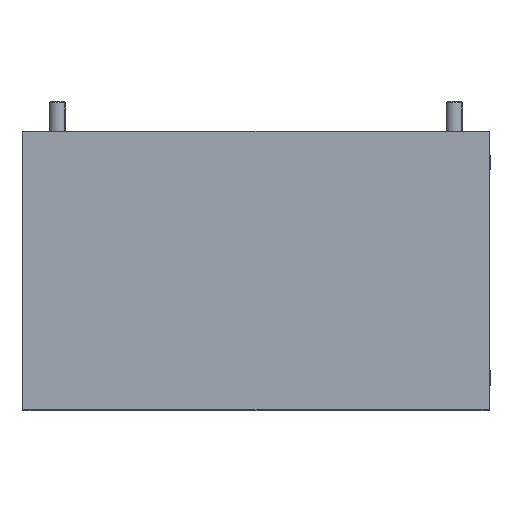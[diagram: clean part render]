
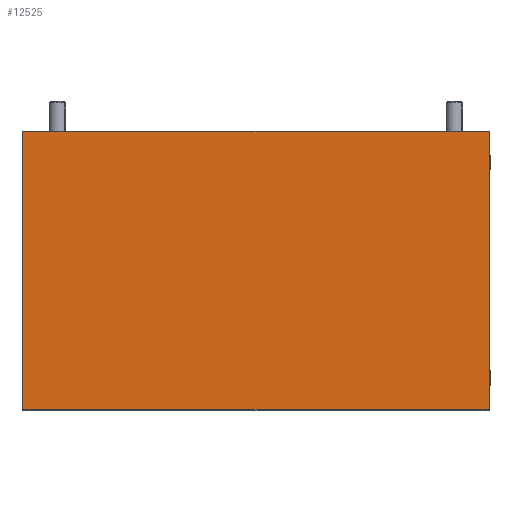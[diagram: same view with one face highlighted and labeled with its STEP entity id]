
A CAD part, top view. The second image highlights one B-rep face of the part: STEP entity #12525.
In plain terms, the highlighted planar face has unit normal (0, 0, 1) as drawn and (0, 0, -1) by its records, which use the part's own axes.
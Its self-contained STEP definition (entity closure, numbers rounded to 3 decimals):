
#84 = ORIENTED_EDGE ( 'NONE', *, *, #5702, .F. ) ;
#126 = VECTOR ( 'NONE', #11003, 1000. ) ;
#172 = DIRECTION ( 'NONE',  ( 1., 0., 0. ) ) ;
#1062 = EDGE_CURVE ( 'NONE', #5491, #11323, #12089, .T. ) ;
#1092 = CARTESIAN_POINT ( 'NONE',  ( -167.75, 100., -2.5 ) ) ;
#1563 = CARTESIAN_POINT ( 'NONE',  ( 167.75, -100., -2.5 ) ) ;
#1986 = VERTEX_POINT ( 'NONE', #6849 ) ;
#2107 = AXIS2_PLACEMENT_3D ( 'NONE', #4988, #9353, #2943 ) ;
#2111 = CARTESIAN_POINT ( 'NONE',  ( -167.75, 0., -2.5 ) ) ;
#2143 = ORIENTED_EDGE ( 'NONE', *, *, #1062, .F. ) ;
#2943 = DIRECTION ( 'NONE',  ( -1., 0., 0. ) ) ;
#3274 = VECTOR ( 'NONE', #8231, 1000. ) ;
#4901 = CARTESIAN_POINT ( 'NONE',  ( 167.75, 100., -2.5 ) ) ;
#4988 = CARTESIAN_POINT ( 'NONE',  ( 0., 0., -2.5 ) ) ;
#5213 = CARTESIAN_POINT ( 'NONE',  ( 0., -100., -2.5 ) ) ;
#5491 = VERTEX_POINT ( 'NONE', #4901 ) ;
#5702 = EDGE_CURVE ( 'NONE', #11323, #1986, #7133, .T. ) ;
#6131 = FACE_OUTER_BOUND ( 'NONE', #10484, .T. ) ;
#6258 = PLANE ( 'NONE',  #2107 ) ;
#6830 = CARTESIAN_POINT ( 'NONE',  ( 0., 100., -2.5 ) ) ;
#6849 = CARTESIAN_POINT ( 'NONE',  ( -167.75, -100., -2.5 ) ) ;
#7133 = LINE ( 'NONE', #2111, #3274 ) ;
#7158 = ORIENTED_EDGE ( 'NONE', *, *, #7937, .F. ) ;
#7475 = VERTEX_POINT ( 'NONE', #1563 ) ;
#7735 = CARTESIAN_POINT ( 'NONE',  ( 167.75, 0., -2.5 ) ) ;
#7937 = EDGE_CURVE ( 'NONE', #7475, #5491, #10818, .T. ) ;
#8231 = DIRECTION ( 'NONE',  ( 0., -1., 0. ) ) ;
#9353 = DIRECTION ( 'NONE',  ( 0., 0., -1. ) ) ;
#9721 = ORIENTED_EDGE ( 'NONE', *, *, #10189, .F. ) ;
#10189 = EDGE_CURVE ( 'NONE', #1986, #7475, #10395, .T. ) ;
#10395 = LINE ( 'NONE', #5213, #12073 ) ;
#10484 = EDGE_LOOP ( 'NONE', ( #7158, #9721, #84, #2143 ) ) ;
#10818 = LINE ( 'NONE', #7735, #11542 ) ;
#11003 = DIRECTION ( 'NONE',  ( -1., 0., 0. ) ) ;
#11323 = VERTEX_POINT ( 'NONE', #1092 ) ;
#11542 = VECTOR ( 'NONE', #12988, 1000. ) ;
#12073 = VECTOR ( 'NONE', #172, 1000. ) ;
#12089 = LINE ( 'NONE', #6830, #126 ) ;
#12525 = ADVANCED_FACE ( 'NONE', ( #6131 ), #6258, .T. ) ;
#12988 = DIRECTION ( 'NONE',  ( 0., 1., 0. ) ) ;
